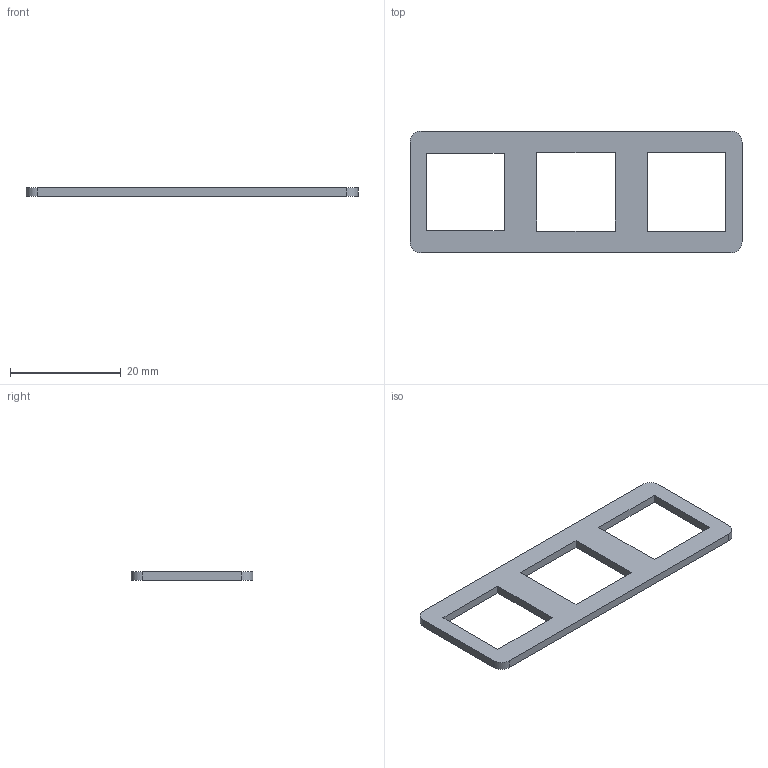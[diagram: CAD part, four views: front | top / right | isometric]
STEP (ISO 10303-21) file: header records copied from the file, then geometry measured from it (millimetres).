
FILE_DESCRIPTION(('Open CASCADE Model'),'2;1');
FILE_NAME('Open CASCADE Shape Model','2026-09-17T20:02:03',('Author'),( 'Open CASCADE'),'Open CASCADE STEP processor 7.7','Open CASCADE 7.7' ,'Unknown');
FILE_SCHEMA(('AUTOMOTIVE_DESIGN { 1 0 10303 214 1 1 1 1 }'));
Length unit declared in the file: millimetre
Products named in the file (1): Open CASCADE STEP translator 7.7 5
Bounding box: 60 x 22 x 1.5 mm (x, y, z)
Volume: 1080.2 mm3; surface area: 1934.9 mm2
Topology: 1 solids, 1 shells, 22 faces, 60 edges, 40 vertices
Faces by surface type: plane 18, cylinder 4
Entity records: 1452 total; most frequent: CARTESIAN_POINT 303, DIRECTION 184, ORIENTED_EDGE 120, PCURVE 120, DEFINITIONAL_REPRESENTATION 120, LINE 116, VECTOR 116, EDGE_CURVE 60
